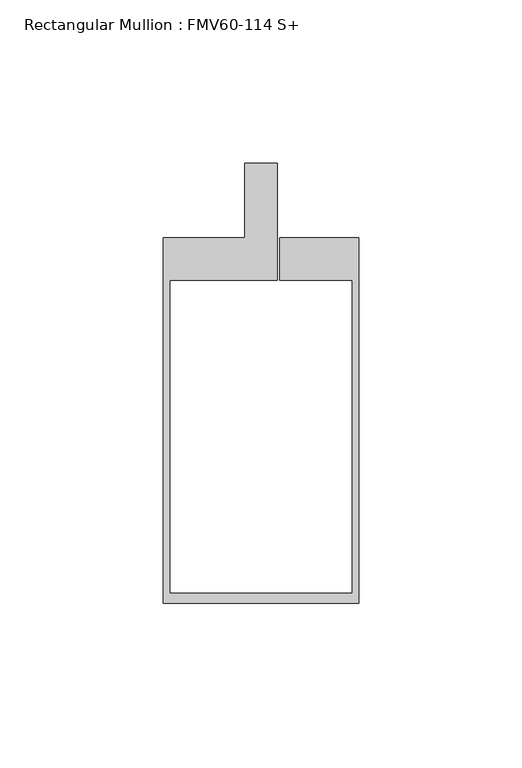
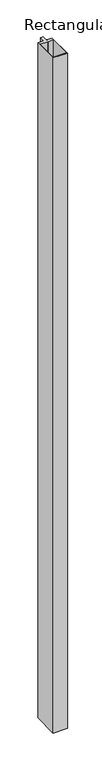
"""IFC4 building model written with IfcOpenShell, lengths in millimetres: member geometry, Rectangular Mullion : FMV60-114 S+."""

from ifc_helpers import new_model, si_unit, frame, origin, place, context, project, spatial, polyline, outline, extrude, source, transform, mapped, element, save


def rectangular_mullion_fmv60_114_s_1e62fae1(model_context):
    return source(origin(), model_context, "Body", "SweptSolid", [
        extrude(outline(polyline([(-5.0, 0.0115534), (-5.0, 22.9884336), (5.0, 22.9884336), (5.0, -12.9918633), (-28.0157699, -12.9918633), (-28.0157699, -109.005331), (27.9841045, -109.005331), (27.9841045, -12.9918633), (5.8, -12.9918633), (5.8, 0.0115534), (29.9842301, 0.0115534), (29.9842301, -112.005331), (-30.0157699, -112.005331), (-30.0157699, 0.0115534), (-5.0, 0.0115534)])), frame((0.0, 0.0, -3020.0), z_axis=(0.0, 0.0, 1.0), x_axis=(1.0, 0.0, 0.0)), (0.0, 0.0, 1.0), 3020.0),
    ])


if __name__ == "__main__":
    model = new_model("IFC4")
    model_context = context("Model", 3, world=origin())
    ifc_project = project(units=[si_unit("LENGTHUNIT", "METRE", prefix="MILLI")], contexts=[model_context])
    site = spatial("IfcSite", under=ifc_project)
    building = spatial("IfcBuilding", under=site)
    placement = place(None, origin())
    rectangular_mullion_fmv60_114_s_shape = rectangular_mullion_fmv60_114_s_1e62fae1(model_context)
    element("IfcMember", 1, ObjectType="Rectangular Mullion : FMV60-114 S+", at=placement, inside=building, context=model_context, shape_type="MappedRepresentation", body=[
        mapped(rectangular_mullion_fmv60_114_s_shape, transform((0.0, 0.0, 0.0), x_axis=(1.0, 0.0, 0.0), y_axis=(0.0, 1.0, 0.0), z_axis=(0.0, 0.0, 1.0))),
    ])
    save(model, "model.ifc")
